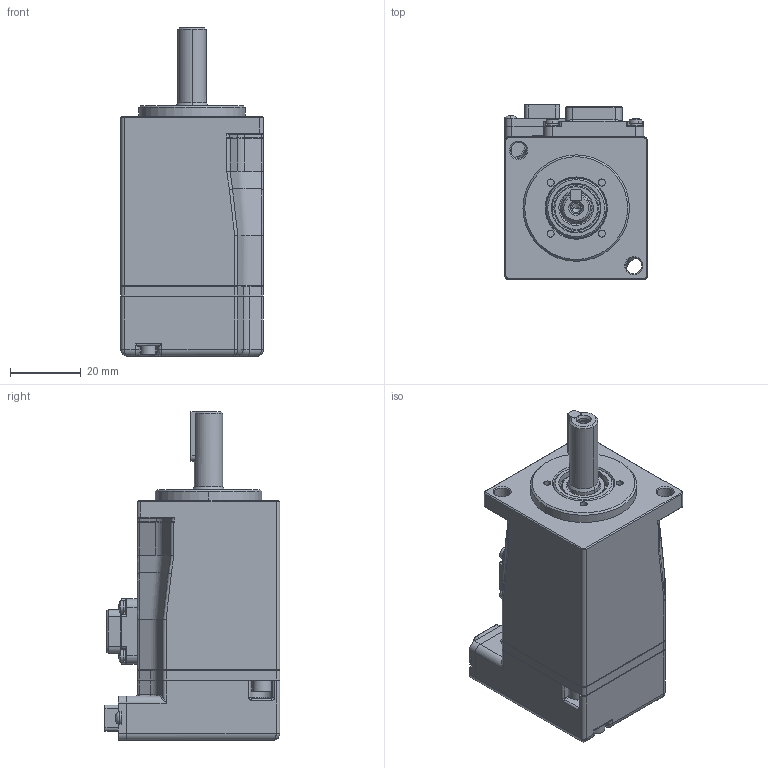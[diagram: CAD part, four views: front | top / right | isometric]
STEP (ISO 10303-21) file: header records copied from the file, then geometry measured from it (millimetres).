
FILE_DESCRIPTION (( 'STEP AP203' ), '1' );
FILE_NAME ('俋倛芞-100W-ACM2S-拸价陬.STEP', '2021-11-15T12:18:38', ( '' ), ( '' ), 'SwSTEP 2.0', 'SolidWorks 2020', '' );
FILE_SCHEMA (( 'CONFIG_CONTROL_DESIGN' ));
Length unit declared in the file: millimetre
Products named in the file (1): 俋倛芞-100W-ACM2S-拸价陬
Bounding box: 40.3 x 49.5 x 92.7 mm (x, y, z)
Volume: 109063 mm3; surface area: 23627.7 mm2
Topology: 12 solids, 29 shells, 2082 faces, 5236 edges, 3233 vertices
Faces by surface type: plane 1112, cylinder 640, cone 142, bspline 101, torus 79, sphere 8
Entity records: 69792 total; most frequent: CARTESIAN_POINT 20141, ORIENTED_EDGE 10366, DIRECTION 10277, EDGE_CURVE 5183, AXIS2_PLACEMENT_3D 3526, VERTEX_POINT 3233, VECTOR 3225, LINE 3225
